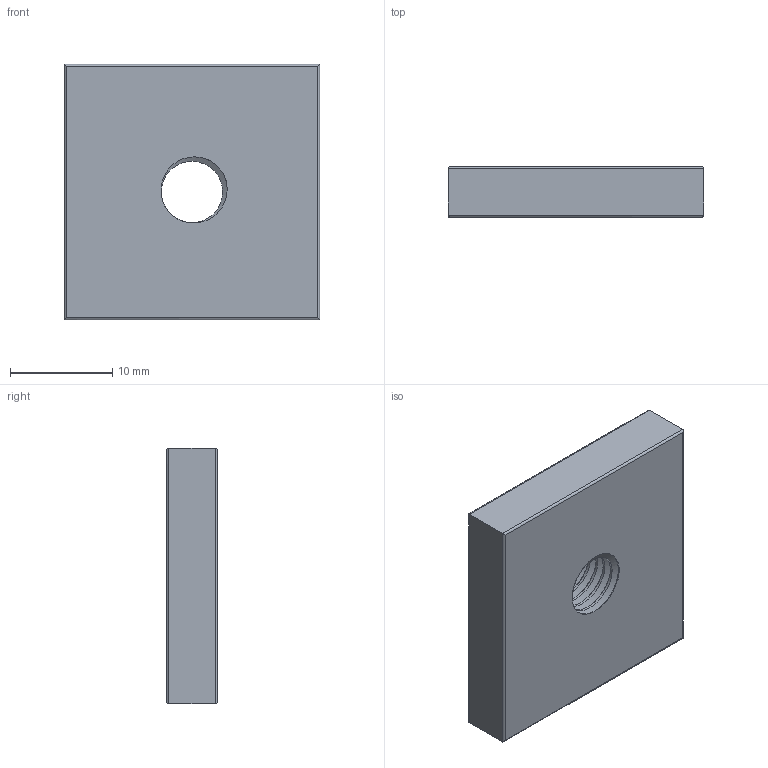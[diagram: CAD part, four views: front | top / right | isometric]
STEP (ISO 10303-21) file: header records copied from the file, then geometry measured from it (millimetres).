
FILE_DESCRIPTION (( 'STEP AP203' ), '1' );
FILE_NAME ('3D_R6450_M6_173483100.STEP', '2024-08-26T13:50:44', ( '' ), ( '' ), 'SwSTEP 2.0', 'SolidWorks 2024', '' );
FILE_SCHEMA (( 'CONFIG_CONTROL_DESIGN' ));
Length unit declared in the file: millimetre
Products named in the file (1): 3D_R6450_M6_173483100
Bounding box: 25 x 5 x 25 mm (x, y, z)
Volume: 2957.8 mm3; surface area: 1833.1 mm2
Topology: 1 solids, 1 shells, 28 faces, 69 edges, 43 vertices
Faces by surface type: cylinder 19, plane 6, bspline 3
Entity records: 2264 total; most frequent: CARTESIAN_POINT 1638, ORIENTED_EDGE 138, DIRECTION 86, EDGE_CURVE 69, VERTEX_POINT 43, EDGE_LOOP 30, LINE 30, VECTOR 30
